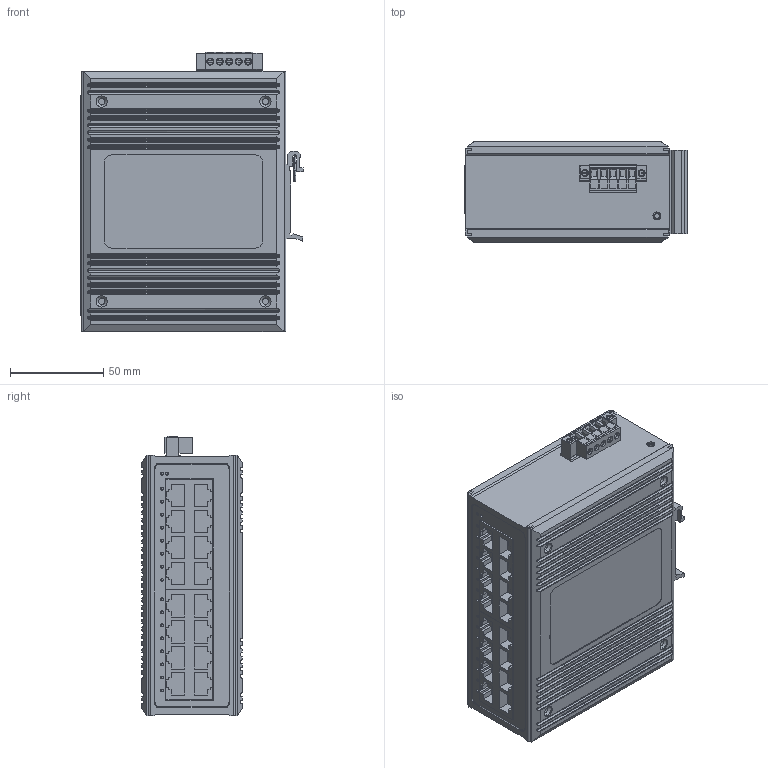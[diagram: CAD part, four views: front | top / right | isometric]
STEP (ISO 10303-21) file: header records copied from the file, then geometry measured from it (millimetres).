
FILE_DESCRIPTION (( 'STEP AP203' ), '1' );
FILE_NAME ('MIES316G-3D-241218.STEP', '2024-12-18T01:49:51', ( 'pc' ), ( 'Microsoft' ), 'SwSTEP 2.0', 'SolidWorks 2014', '' );
FILE_SCHEMA (( 'CONFIG_CONTROL_DESIGN' ));
Products named in the file (1): MIES316G-3D-241218
Bounding box: 119.59 x 54 x 150.2 mm (x, y, z)
Volume: 789626.2 mm3; surface area: 97482.8 mm2
Topology: 2 solids, 17 shells, 1816 faces, 4851 edges, 3144 vertices
Faces by surface type: plane 1057, cylinder 675, cone 62, torus 22
Entity records: 56370 total; most frequent: CARTESIAN_POINT 10976, ORIENTED_EDGE 9702, DIRECTION 9267, EDGE_CURVE 4851, VECTOR 3293, LINE 3293, VERTEX_POINT 3144, AXIS2_PLACEMENT_3D 2987
